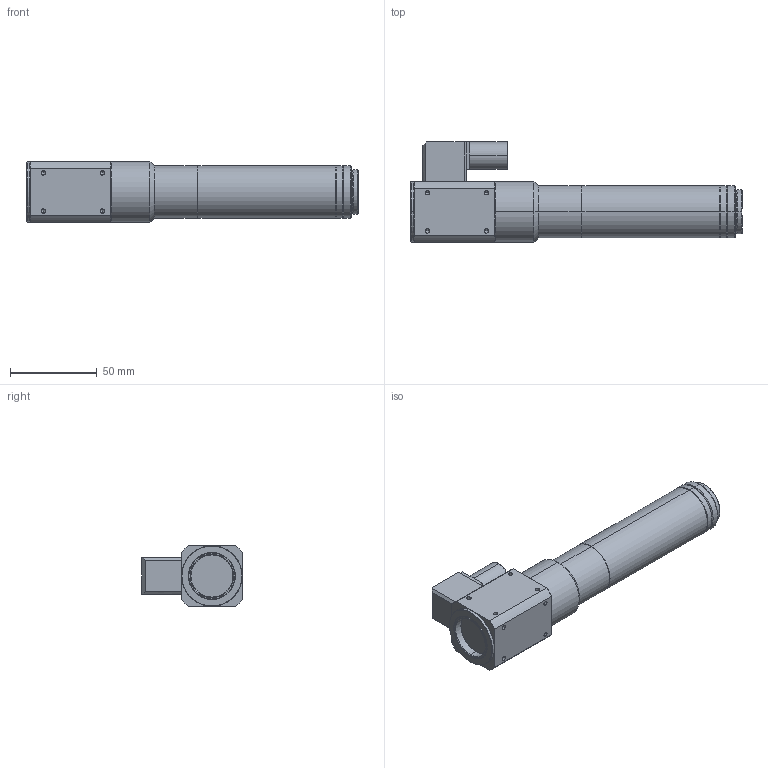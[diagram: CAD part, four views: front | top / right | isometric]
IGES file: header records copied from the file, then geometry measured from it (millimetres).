
Start section: SolidWorks IGES file using analytic representation for surfaces
Global section: file name: \\192.168.200.11\Development\3 製品\1 標準品\05 顕微鏡ユニット\010 VS-MS1N\10.3D外観モデル\VS-MS1N.IGS; native system: SolidWorks 2015; preprocessor: SolidWorks 2015; author: miura_vst; date: 151102.093935; units: millimetre
Bounding box: 191.5 x 58 x 35 mm (x, y, z)
Surface area: 34263.4 mm2 (no closed solid volume)
Topology: 0 solids, 0 shells, 195 faces, 2328 edges, 2303 vertices
Faces by surface type: revolution 160, bspline 35
